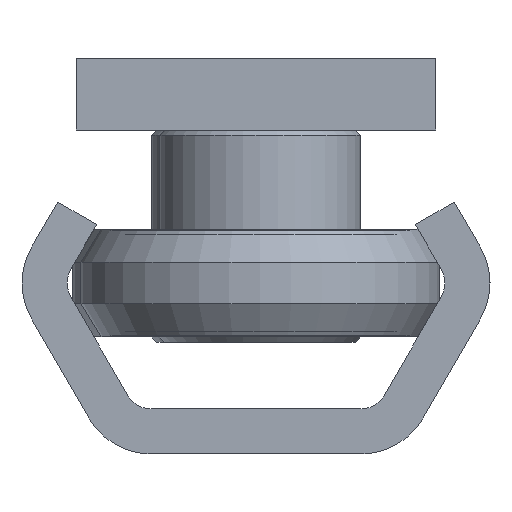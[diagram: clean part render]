
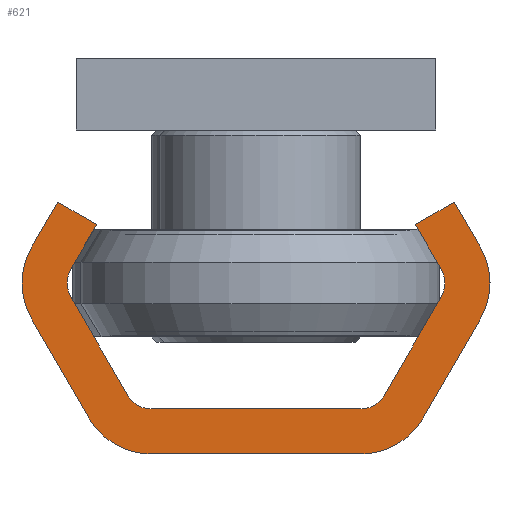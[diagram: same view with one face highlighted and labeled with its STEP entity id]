
A CAD part, left-side view. The second image highlights one B-rep face of the part: STEP entity #621.
In plain terms, the highlighted planar face has unit normal (-1, 0, 0).
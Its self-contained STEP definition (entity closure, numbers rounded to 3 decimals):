
#621 = ADVANCED_FACE( '', ( #1265 ), #1266, .F. );
#1265 = FACE_OUTER_BOUND( '', #2071, .T. );
#1266 = PLANE( '', #2072 );
#2071 = EDGE_LOOP( '', ( #3238, #3239, #3240, #3241, #3242, #3243, #3244, #3245, #3246, #3247, #3248, #3249, #3250, #3251, #3252, #3253, #3254, #3255, #3256, #3257 ) );
#2072 = AXIS2_PLACEMENT_3D( '', #3258, #3259, #3260 );
#3238 = ORIENTED_EDGE( '', *, *, #3330, .F. );
#3239 = ORIENTED_EDGE( '', *, *, #3477, .F. );
#3240 = ORIENTED_EDGE( '', *, *, #3351, .F. );
#3241 = ORIENTED_EDGE( '', *, *, #3374, .F. );
#3242 = ORIENTED_EDGE( '', *, *, #3310, .F. );
#3243 = ORIENTED_EDGE( '', *, *, #3665, .F. );
#3244 = ORIENTED_EDGE( '', *, *, #3402, .F. );
#3245 = ORIENTED_EDGE( '', *, *, #3593, .T. );
#3246 = ORIENTED_EDGE( '', *, *, #3570, .F. );
#3247 = ORIENTED_EDGE( '', *, *, #3590, .T. );
#3248 = ORIENTED_EDGE( '', *, *, #3558, .F. );
#3249 = ORIENTED_EDGE( '', *, *, #3412, .T. );
#3250 = ORIENTED_EDGE( '', *, *, #3633, .F. );
#3251 = ORIENTED_EDGE( '', *, *, #3430, .T. );
#3252 = ORIENTED_EDGE( '', *, *, #3464, .F. );
#3253 = ORIENTED_EDGE( '', *, *, #3516, .F. );
#3254 = ORIENTED_EDGE( '', *, *, #3503, .F. );
#3255 = ORIENTED_EDGE( '', *, *, #3526, .F. );
#3256 = ORIENTED_EDGE( '', *, *, #3356, .F. );
#3257 = ORIENTED_EDGE( '', *, *, #3498, .F. );
#3258 = CARTESIAN_POINT( '', ( 0., -5.825, -4. ) );
#3259 = DIRECTION( '', ( 1., 0., 0. ) );
#3260 = DIRECTION( '', ( 0., 0., -1. ) );
#3310 = EDGE_CURVE( '', #3783, #3784, #3785, .T. );
#3330 = EDGE_CURVE( '', #3820, #3821, #3822, .T. );
#3351 = EDGE_CURVE( '', #3859, #3860, #3861, .T. );
#3356 = EDGE_CURVE( '', #3868, #3869, #3870, .T. );
#3374 = EDGE_CURVE( '', #3784, #3859, #3899, .T. );
#3402 = EDGE_CURVE( '', #3941, #3942, #3943, .T. );
#3412 = EDGE_CURVE( '', #3957, #3958, #3959, .T. );
#3430 = EDGE_CURVE( '', #3986, #3987, #3988, .T. );
#3464 = EDGE_CURVE( '', #4036, #3987, #4037, .T. );
#3477 = EDGE_CURVE( '', #3860, #3820, #4056, .T. );
#3498 = EDGE_CURVE( '', #3821, #3868, #4085, .T. );
#3503 = EDGE_CURVE( '', #4091, #4092, #4093, .T. );
#3516 = EDGE_CURVE( '', #4092, #4036, #4111, .T. );
#3526 = EDGE_CURVE( '', #3869, #4091, #4125, .T. );
#3558 = EDGE_CURVE( '', #3957, #4173, #4174, .T. );
#3570 = EDGE_CURVE( '', #4189, #4190, #4191, .T. );
#3590 = EDGE_CURVE( '', #4189, #4173, #4215, .T. );
#3593 = EDGE_CURVE( '', #3941, #4190, #4218, .T. );
#3633 = EDGE_CURVE( '', #3986, #3958, #4275, .T. );
#3665 = EDGE_CURVE( '', #3942, #3783, #4317, .T. );
#3783 = VERTEX_POINT( '', #4455 );
#3784 = VERTEX_POINT( '', #4456 );
#3785 = LINE( '', #4457, #4458 );
#3820 = VERTEX_POINT( '', #4498 );
#3821 = VERTEX_POINT( '', #4499 );
#3822 = LINE( '', #4500, #4501 );
#3859 = VERTEX_POINT( '', #4551 );
#3860 = VERTEX_POINT( '', #4552 );
#3861 = LINE( '', #4553, #4554 );
#3868 = VERTEX_POINT( '', #4564 );
#3869 = VERTEX_POINT( '', #4565 );
#3870 = LINE( '', #4566, #4567 );
#3899 = CIRCLE( '', #4601, 4. );
#3941 = VERTEX_POINT( '', #4646 );
#3942 = VERTEX_POINT( '', #4647 );
#3943 = LINE( '', #4648, #4649 );
#3957 = VERTEX_POINT( '', #4667 );
#3958 = VERTEX_POINT( '', #4668 );
#3959 = CIRCLE( '', #4669, 1.5 );
#3986 = VERTEX_POINT( '', #4701 );
#3987 = VERTEX_POINT( '', #4702 );
#3988 = CIRCLE( '', #4703, 1.5 );
#4036 = VERTEX_POINT( '', #4759 );
#4037 = LINE( '', #4760, #4761 );
#4056 = CIRCLE( '', #4784, 4. );
#4085 = CIRCLE( '', #4817, 4. );
#4091 = VERTEX_POINT( '', #4823 );
#4092 = VERTEX_POINT( '', #4824 );
#4093 = LINE( '', #4825, #4826 );
#4111 = LINE( '', #4848, #4849 );
#4125 = CIRCLE( '', #4864, 4. );
#4173 = VERTEX_POINT( '', #4922 );
#4174 = LINE( '', #4923, #4924 );
#4189 = VERTEX_POINT( '', #4941 );
#4190 = VERTEX_POINT( '', #4942 );
#4191 = LINE( '', #4943, #4944 );
#4215 = CIRCLE( '', #4974, 1.5 );
#4218 = CIRCLE( '', #4977, 1.5 );
#4275 = LINE( '', #5047, #5048 );
#4317 = LINE( '', #5098, #5099 );
#4455 = CARTESIAN_POINT( '', ( 0., 11.021, -14. ) );
#4456 = CARTESIAN_POINT( '', ( 0., 12.464, -11.5 ) );
#4457 = CARTESIAN_POINT( '', ( 0., 11.021, -14. ) );
#4458 = VECTOR( '', #5212, 1000. );
#4498 = CARTESIAN_POINT( '', ( 0., 5.825, 0. ) );
#4499 = CARTESIAN_POINT( '', ( 0., -5.825, 0. ) );
#4500 = CARTESIAN_POINT( '', ( 0., 5.825, 0. ) );
#4501 = VECTOR( '', #5251, 1000. );
#4551 = CARTESIAN_POINT( '', ( 0., 12.464, -7.5 ) );
#4552 = CARTESIAN_POINT( '', ( 0., 9.289, -2. ) );
#4553 = CARTESIAN_POINT( '', ( 0., 12.464, -7.5 ) );
#4554 = VECTOR( '', #5277, 1000. );
#4564 = CARTESIAN_POINT( '', ( 0., -9.289, -2. ) );
#4565 = CARTESIAN_POINT( '', ( 0., -12.464, -7.5 ) );
#4566 = CARTESIAN_POINT( '', ( 0., -9.289, -2. ) );
#4567 = VECTOR( '', #5281, 1000. );
#4601 = AXIS2_PLACEMENT_3D( '', #5308, #5309, #5310 );
#4646 = CARTESIAN_POINT( '', ( 0., 10.299, -10.25 ) );
#4647 = CARTESIAN_POINT( '', ( 0., 8.856, -12.75 ) );
#4648 = CARTESIAN_POINT( '', ( 0., 10.299, -10.25 ) );
#4649 = VECTOR( '', #5356, 1000. );
#4667 = CARTESIAN_POINT( '', ( 0., -5.825, -2.5 ) );
#4668 = CARTESIAN_POINT( '', ( 0., -7.124, -3.25 ) );
#4669 = AXIS2_PLACEMENT_3D( '', #5367, #5368, #5369 );
#4701 = CARTESIAN_POINT( '', ( 0., -10.299, -8.75 ) );
#4702 = CARTESIAN_POINT( '', ( 0., -10.299, -10.25 ) );
#4703 = AXIS2_PLACEMENT_3D( '', #5393, #5394, #5395 );
#4759 = CARTESIAN_POINT( '', ( 0., -8.856, -12.75 ) );
#4760 = CARTESIAN_POINT( '', ( 0., -8.856, -12.75 ) );
#4761 = VECTOR( '', #5443, 1000. );
#4784 = AXIS2_PLACEMENT_3D( '', #5460, #5461, #5462 );
#4817 = AXIS2_PLACEMENT_3D( '', #5494, #5495, #5496 );
#4823 = CARTESIAN_POINT( '', ( 0., -12.464, -11.5 ) );
#4824 = CARTESIAN_POINT( '', ( 0., -11.021, -14. ) );
#4825 = CARTESIAN_POINT( '', ( 0., -12.464, -11.5 ) );
#4826 = VECTOR( '', #5503, 1000. );
#4848 = CARTESIAN_POINT( '', ( 0., -11.021, -14. ) );
#4849 = VECTOR( '', #5517, 1000. );
#4864 = AXIS2_PLACEMENT_3D( '', #5531, #5532, #5533 );
#4922 = CARTESIAN_POINT( '', ( 0., 5.825, -2.5 ) );
#4923 = CARTESIAN_POINT( '', ( 0., -5.825, -2.5 ) );
#4924 = VECTOR( '', #5580, 1000. );
#4941 = CARTESIAN_POINT( '', ( 0., 7.124, -3.25 ) );
#4942 = CARTESIAN_POINT( '', ( 0., 10.299, -8.75 ) );
#4943 = CARTESIAN_POINT( '', ( 0., 7.124, -3.25 ) );
#4944 = VECTOR( '', #5595, 1000. );
#4974 = AXIS2_PLACEMENT_3D( '', #5611, #5612, #5613 );
#4977 = AXIS2_PLACEMENT_3D( '', #5617, #5618, #5619 );
#5047 = CARTESIAN_POINT( '', ( 0., -10.299, -8.75 ) );
#5048 = VECTOR( '', #5681, 1000. );
#5098 = CARTESIAN_POINT( '', ( 0., 8.856, -12.75 ) );
#5099 = VECTOR( '', #5717, 1000. );
#5212 = DIRECTION( '', ( 0., 0.5, 0.866 ) );
#5251 = DIRECTION( '', ( 0., -1., 0. ) );
#5277 = DIRECTION( '', ( 0., -0.5, 0.866 ) );
#5281 = DIRECTION( '', ( 0., -0.5, -0.866 ) );
#5308 = CARTESIAN_POINT( '', ( 0., 9., -9.5 ) );
#5309 = DIRECTION( '', ( 1., 0., 0. ) );
#5310 = DIRECTION( '', ( 0., 0., -1. ) );
#5356 = DIRECTION( '', ( 0., -0.5, -0.866 ) );
#5367 = CARTESIAN_POINT( '', ( 0., -5.825, -4. ) );
#5368 = DIRECTION( '', ( 1., 0., 0. ) );
#5369 = DIRECTION( '', ( 0., 0., -1. ) );
#5393 = CARTESIAN_POINT( '', ( 0., -9., -9.5 ) );
#5394 = DIRECTION( '', ( 1., 0., 0. ) );
#5395 = DIRECTION( '', ( 0., 0., -1. ) );
#5443 = DIRECTION( '', ( 0., -0.5, 0.866 ) );
#5460 = CARTESIAN_POINT( '', ( 0., 5.825, -4. ) );
#5461 = DIRECTION( '', ( 1., 0., 0. ) );
#5462 = DIRECTION( '', ( 0., 0., -1. ) );
#5494 = CARTESIAN_POINT( '', ( 0., -5.825, -4. ) );
#5495 = DIRECTION( '', ( 1., 0., 0. ) );
#5496 = DIRECTION( '', ( 0., 0., -1. ) );
#5503 = DIRECTION( '', ( 0., 0.5, -0.866 ) );
#5517 = DIRECTION( '', ( 0., 0.866, 0.5 ) );
#5531 = CARTESIAN_POINT( '', ( 0., -9., -9.5 ) );
#5532 = DIRECTION( '', ( 1., 0., 0. ) );
#5533 = DIRECTION( '', ( 0., 0., -1. ) );
#5580 = DIRECTION( '', ( 0., 1., 0. ) );
#5595 = DIRECTION( '', ( 0., 0.5, -0.866 ) );
#5611 = CARTESIAN_POINT( '', ( 0., 5.825, -4. ) );
#5612 = DIRECTION( '', ( 1., 0., 0. ) );
#5613 = DIRECTION( '', ( 0., 0., -1. ) );
#5617 = CARTESIAN_POINT( '', ( 0., 9., -9.5 ) );
#5618 = DIRECTION( '', ( 1., 0., 0. ) );
#5619 = DIRECTION( '', ( 0., 0., -1. ) );
#5681 = DIRECTION( '', ( 0., 0.5, 0.866 ) );
#5717 = DIRECTION( '', ( 0., 0.866, -0.5 ) );
